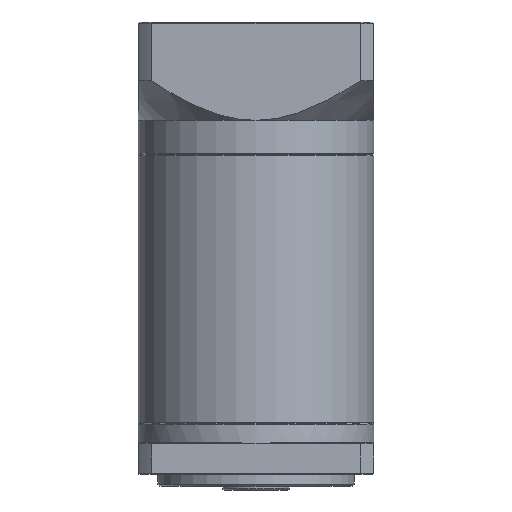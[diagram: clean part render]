
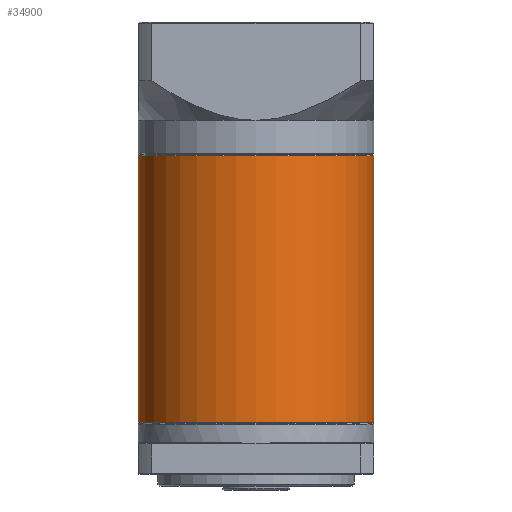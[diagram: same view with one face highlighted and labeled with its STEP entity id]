
A CAD part, front view. The second image highlights one B-rep face of the part: STEP entity #34900.
In plain terms, the highlighted cylindrical face has radius 30 mm (diameter 60 mm), a partial arc.
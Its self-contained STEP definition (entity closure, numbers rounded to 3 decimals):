
#206 = DIRECTION ( 'NONE',  ( 0., 0., 1. ) ) ;
#3187 = DIRECTION ( 'NONE',  ( 0., 0., -1. ) ) ;
#6201 = ORIENTED_EDGE ( 'NONE', *, *, #22874, .T. ) ;
#6530 = CIRCLE ( 'NONE', #71242, 30. ) ;
#11916 = CARTESIAN_POINT ( 'NONE',  ( -40.977, 22.072, -56.385 ) ) ;
#12050 = CARTESIAN_POINT ( 'NONE',  ( -40.977, 22.072, 11.665 ) ) ;
#16118 = AXIS2_PLACEMENT_3D ( 'NONE', #40037, #3187, #46146 ) ;
#19688 = LINE ( 'NONE', #66855, #52306 ) ;
#22874 = EDGE_CURVE ( 'NONE', #74731, #36314, #6530, .T. ) ;
#23650 = EDGE_CURVE ( 'NONE', #60321, #74731, #19688, .T. ) ;
#23722 = CARTESIAN_POINT ( 'NONE',  ( -40.977, 22.072, 11.415 ) ) ;
#24849 = DIRECTION ( 'NONE',  ( -1., 0., 0. ) ) ;
#26851 = CARTESIAN_POINT ( 'NONE',  ( -100.977, 22.072, 11.415 ) ) ;
#27049 = ORIENTED_EDGE ( 'NONE', *, *, #23650, .T. ) ;
#30171 = DIRECTION ( 'NONE',  ( 0., 0., -1. ) ) ;
#31901 = ORIENTED_EDGE ( 'NONE', *, *, #64030, .F. ) ;
#34900 = ADVANCED_FACE ( 'NONE', ( #68533 ), #77084, .T. ) ;
#36314 = VERTEX_POINT ( 'NONE', #11916 ) ;
#36998 = CARTESIAN_POINT ( 'NONE',  ( -70.977, 22.072, -56.385 ) ) ;
#38518 = VECTOR ( 'NONE', #48772, 1000. ) ;
#40037 = CARTESIAN_POINT ( 'NONE',  ( -70.977, 22.072, 11.415 ) ) ;
#43146 = DIRECTION ( 'NONE',  ( 1., 0., 0. ) ) ;
#46146 = DIRECTION ( 'NONE',  ( 1., 0., 0. ) ) ;
#47942 = VERTEX_POINT ( 'NONE', #23722 ) ;
#48772 = DIRECTION ( 'NONE',  ( 0., 0., -1. ) ) ;
#52306 = VECTOR ( 'NONE', #30171, 1000. ) ;
#57707 = EDGE_CURVE ( 'NONE', #47942, #60321, #63948, .T. ) ;
#60321 = VERTEX_POINT ( 'NONE', #26851 ) ;
#63948 = CIRCLE ( 'NONE', #16118, 30. ) ;
#64030 = EDGE_CURVE ( 'NONE', #47942, #36314, #71117, .T. ) ;
#66855 = CARTESIAN_POINT ( 'NONE',  ( -100.977, 22.072, 11.665 ) ) ;
#66910 = ORIENTED_EDGE ( 'NONE', *, *, #57707, .T. ) ;
#67189 = CARTESIAN_POINT ( 'NONE',  ( -70.977, 22.072, 11.665 ) ) ;
#67449 = AXIS2_PLACEMENT_3D ( 'NONE', #67189, #73617, #24849 ) ;
#68533 = FACE_OUTER_BOUND ( 'NONE', #73912, .T. ) ;
#71117 = LINE ( 'NONE', #12050, #38518 ) ;
#71242 = AXIS2_PLACEMENT_3D ( 'NONE', #36998, #206, #43146 ) ;
#73617 = DIRECTION ( 'NONE',  ( 0., 0., -1. ) ) ;
#73912 = EDGE_LOOP ( 'NONE', ( #31901, #66910, #27049, #6201 ) ) ;
#74731 = VERTEX_POINT ( 'NONE', #77364 ) ;
#77084 = CYLINDRICAL_SURFACE ( 'NONE', #67449, 30. ) ;
#77364 = CARTESIAN_POINT ( 'NONE',  ( -100.977, 22.072, -56.385 ) ) ;
